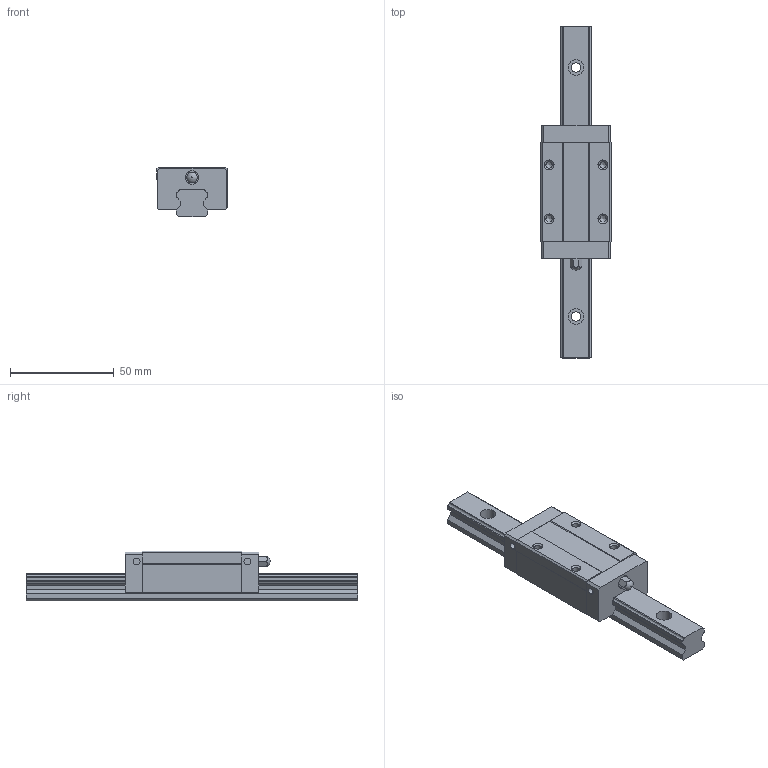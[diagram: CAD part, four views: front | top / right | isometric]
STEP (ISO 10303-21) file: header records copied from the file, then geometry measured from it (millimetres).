
FILE_DESCRIPTION((''),'1');
FILE_NAME(' ',' ',(''),(''),'ACIS Interop R16','Kubotek KeyCreator V6.5.2 (0407)',' ');
FILE_SCHEMA(('CONFIG_CONTROL_DESIGN'));
Length unit declared in the file: millimetre
Products named in the file (3): 1; 2; 3
Bounding box: 34 x 160 x 24 mm (x, y, z)
Volume: 62385.5 mm3; surface area: 20167.7 mm2
Topology: 3 solids, 3 shells, 149 faces, 390 edges, 254 vertices
Faces by surface type: plane 75, cylinder 54, cone 18, sphere 2
Entity records: 4701 total; most frequent: DIRECTION 821, CARTESIAN_POINT 791, ORIENTED_EDGE 764, EDGE_CURVE 382, AXIS2_PLACEMENT_3D 288, VERTEX_POINT 254, LINE 245, VECTOR 245
